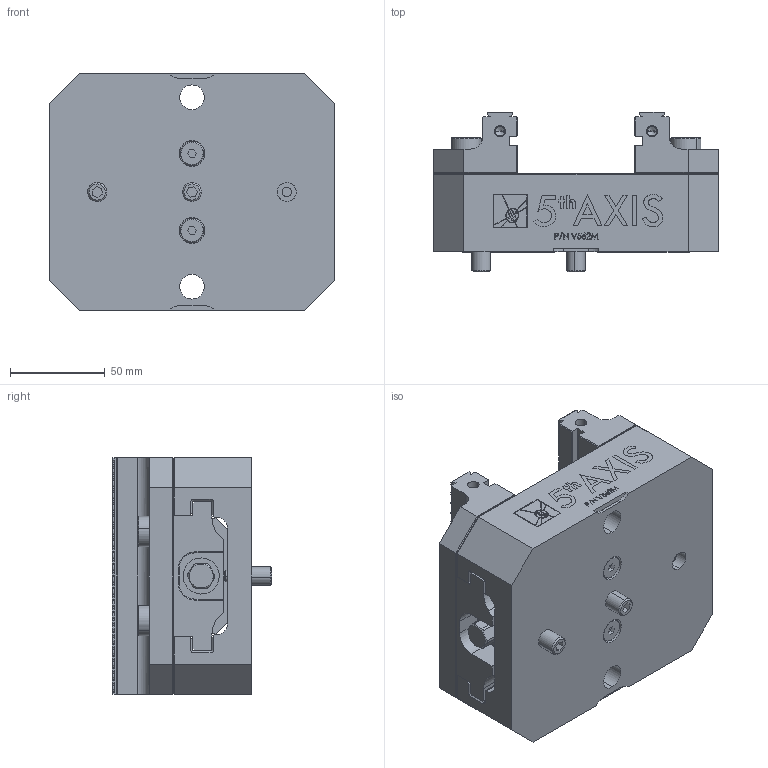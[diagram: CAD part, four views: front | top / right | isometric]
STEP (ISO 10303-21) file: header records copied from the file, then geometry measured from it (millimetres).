
FILE_DESCRIPTION (( 'STEP AP214' ), '1' );
FILE_NAME ('V562M.STEP', '2015-08-05T17:31:24', ( '' ), ( '' ), 'SwSTEP 2.0', 'SolidWorks 2015', '' );
FILE_SCHEMA (( 'AUTOMOTIVE_DESIGN' ));
Length unit declared in the file: millimetre
Products named in the file (14): 91290A520_91290A520; V562M-5T REV A_FINISHED PART ; TIM-610 REV -; LP10 REV C_LP10; 91390A097 FMETRIC_91390A097; 92012A306 .3125 X .75 P SHOULDER BOLTFMETRIC_92012A306; V562M-6 REV A_V562M-6; V562M-4 REV A_V562M-4; V562M-3 REV A_V562M-3; V562M-2 REV A_V562M-2L; V562M-2 REV A_V562M-2R; V562M-1 REV A_V562M-1; V562M; 91595A548_91595A548
Assembly tree (26 placements, depth 2):
  V562M
    V562M-1 REV A_V562M-1
    V562M-2 REV A_V562M-2R
    V562M-2 REV A_V562M-2L
    V562M-3 REV A_V562M-3
    V562M-4 REV A_V562M-4
    V562M-6 REV A_V562M-6  x2
    92012A306 .3125 X .75 P SHOULDER BOLTFMETRIC_92012A306  x2
    91390A097 FMETRIC_91390A097
    LP10 REV C_LP10  x2
    TIM-610 REV -  x3
    V562M-5T REV A_FINISHED PART   x2
    91290A520_91290A520  x5
    91595A548_91595A548  x4
Bounding box: 150 x 84.3 x 125 mm (x, y, z)
Volume: 815782.5 mm3; surface area: 179773 mm2
Topology: 26 solids, 26 shells, 2395 faces, 6408 edges, 4192 vertices
Faces by surface type: plane 991, cylinder 923, bspline 267, cone 194, sphere 16, torus 4
Entity records: 59364 total; most frequent: CARTESIAN_POINT 22113, ORIENTED_EDGE 8232, DIRECTION 6420, EDGE_CURVE 4116, VERTEX_POINT 2708, VECTOR 2560, LINE 2560, AXIS2_PLACEMENT_3D 1930
